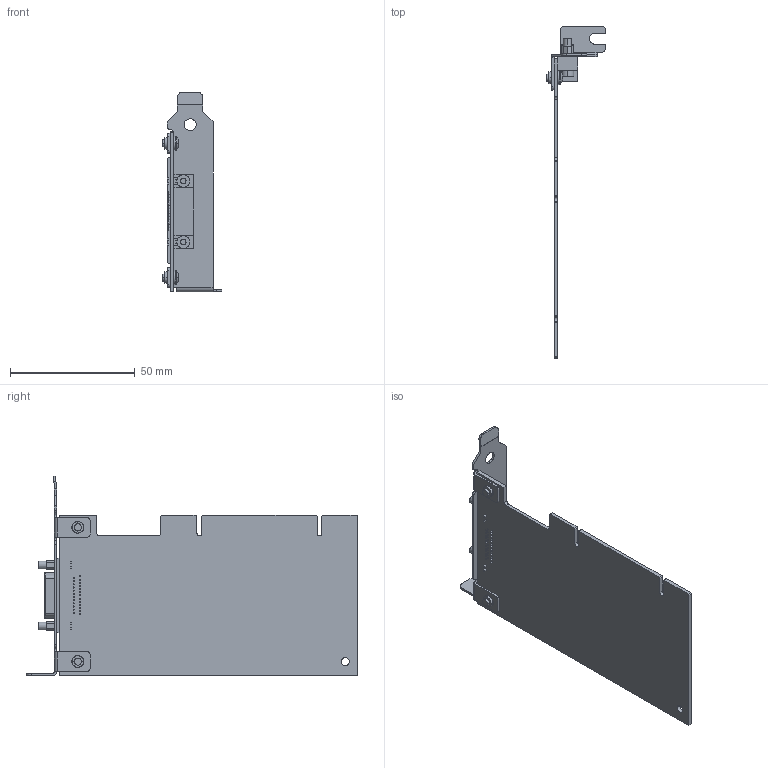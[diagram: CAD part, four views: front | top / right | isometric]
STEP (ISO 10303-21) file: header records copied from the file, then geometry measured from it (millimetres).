
FILE_DESCRIPTION((''),'2;1');
FILE_NAME('CU_PCI-GPIB_LP','2012-03-28T',('talbott'),(''),'PRO/ENGINEER BY PARAMETRIC TECHNOLOGY CORPORATION, 2010230','PRO/ENGINEER BY PARAMETRIC TECHNOLOGY CORPORATION, 2010230','');
FILE_SCHEMA(('CONFIG_CONTROL_DESIGN'));
Length unit declared in the file: inch
Products named in the file (1): CU_PCI-GPIB_LP
Bounding box: 24.05 x 133.25 x 80.09 mm (x, y, z)
Volume: 15868.5 mm3; surface area: 20016.9 mm2
Topology: 1 solids, 4 shells, 403 faces, 985 edges, 590 vertices
Faces by surface type: plane 209, cylinder 134, bspline 40, torus 16, sphere 4
Entity records: 12349 total; most frequent: CARTESIAN_POINT 2980, DIRECTION 1947, ORIENTED_EDGE 1890, EDGE_CURVE 945, AXIS2_PLACEMENT_3D 707, VERTEX_POINT 628, VECTOR 533, LINE 533
